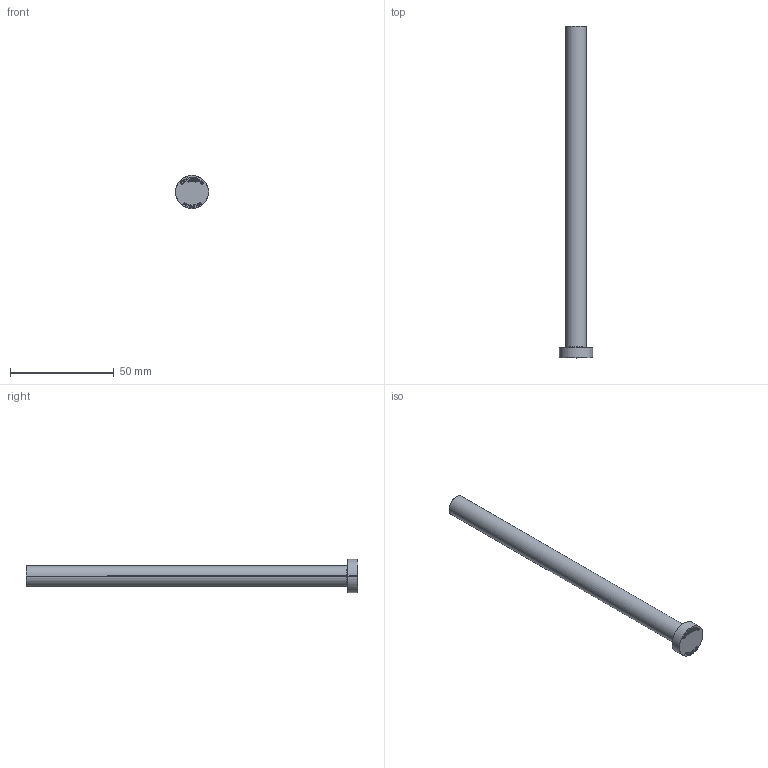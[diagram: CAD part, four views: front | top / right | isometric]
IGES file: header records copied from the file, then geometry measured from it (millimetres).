
Start section: SolidWorks IGES file using analytic representation for surfaces
Global section: file name: C:\Users\User\Downloads\Matripeça 31-08 tar\PB - PINO EXTRATOR TIPO _B_ (CATÁLOGO)\PB10,0\PB10,0160.IGS; native system: SolidWorks 2024; preprocessor: SolidWorks 2024; author: User; date: 260901.150255; units: millimetre
Bounding box: 16 x 160 x 16 mm (x, y, z)
Surface area: 5528.6 mm2 (no closed solid volume)
Topology: 0 solids, 0 shells, 391 faces, 3860 edges, 3860 vertices
Faces by surface type: bspline 377, revolution 14
